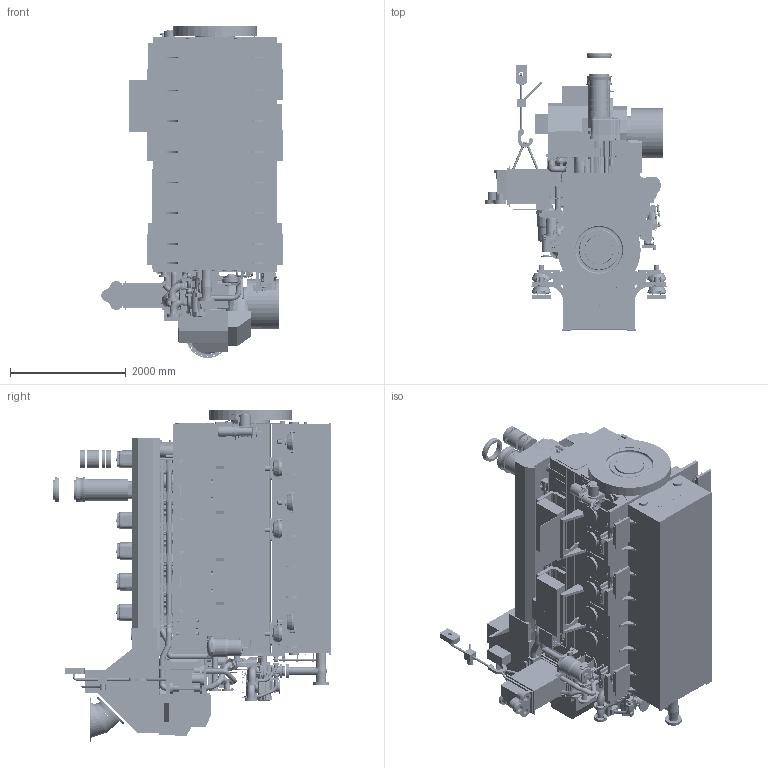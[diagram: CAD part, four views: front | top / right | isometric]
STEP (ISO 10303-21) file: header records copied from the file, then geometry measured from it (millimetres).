
FILE_DESCRIPTION((''),'2;1');
FILE_NAME('6M32E_CFWS_STP_ASM','2015-09-17T',('petera8'),('Caterpillar Motoren GmbH & Co.KG'),'PRO/ENGINEER BY PARAMETRIC TECHNOLOGY CORPORATION, 2014200','PRO/ENGINEER BY PARAMETRIC TECHNOLOGY CORPORATION, 2014200','');
FILE_SCHEMA(('CONFIG_CONTROL_DESIGN'));
Products named in the file (7): 6M32E_CFWS_STP_ENGINE_P03; 6M32E_CFWS_STP_WET_SUMP_P03; 6M32E_CFWS_STP_WET_SU_ELA_P03; 6M32E_CFWS_STP_DRY_SUMP_P02; 6M32E_CFWS_STP_RESI_MOUNT_P01; 6M32E_CFWS_STP_REMOV_SPAC_P04; 6M32E_CFWS_STP_ASM
Assembly tree (6 placements, depth 2):
  6M32E_CFWS_STP_ASM
    6M32E_CFWS_STP_ENGINE_P03
    6M32E_CFWS_STP_WET_SUMP_P03
    6M32E_CFWS_STP_WET_SU_ELA_P03
    6M32E_CFWS_STP_DRY_SUMP_P02
    6M32E_CFWS_STP_RESI_MOUNT_P01
    6M32E_CFWS_STP_REMOV_SPAC_P04
Bounding box: 3138 x 4797 x 5743.77 mm (x, y, z)
Surface area: 220461675.1 mm2 (no closed solid volume)
Topology: 0 solids, 654 shells, 6275 faces, 23613 edges, 17571 vertices
Faces by surface type: plane 3134, cylinder 2223, bspline 393, cone 193, torus 150, extrusion 116, sphere 34, revolution 32
Entity records: 343618 total; most frequent: CARTESIAN_POINT 116533, DIRECTION 41209, ORIENTED_EDGE 35743, EDGE_CURVE 23552, VERTEX_POINT 17571, AXIS2_PLACEMENT_3D 13801, VECTOR 13575, LINE 13459
